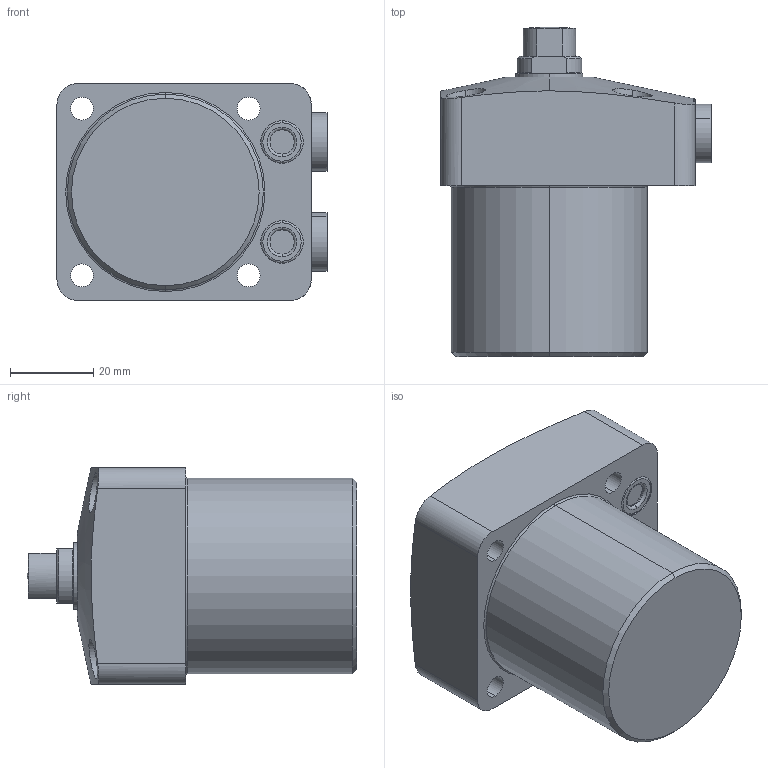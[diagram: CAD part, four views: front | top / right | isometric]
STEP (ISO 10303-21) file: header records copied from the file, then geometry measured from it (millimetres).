
FILE_DESCRIPTION(/* description */ (''),/* implementation_level */ '2;1');
FILE_NAME(/* name */ 'CSU06_step.stp',/* time_stamp */ '2022-11-16T13:22:10+08:00',/* author */ (''),/* organization */ (''),/* preprocessor_version */ 'ST-DEVELOPER v16.7',/* originating_system */ 'SIEMENS PLM Software NX 12.0',/* authorisation */ '');
FILE_SCHEMA (('AP203_CONFIGURATION_CONTROLLED_3D_DESIGN_OF_MECHANICAL_PARTS_AND_ASSEMBLIES_MIM_LF { 1 0 10303 403 2 1 2}'));
Length unit declared in the file: millimetre
Products named in the file (5): FSC06-02; FSC06-04; FSC06-03; FSC06-01; CSU06_step
Assembly tree (5 placements, depth 2):
  CSU06_step
    FSC06-01
    FSC06-03
    FSC06-04  x2
    FSC06-02
Bounding box: 64.8 x 79 x 52 mm (x, y, z)
Volume: 143051.8 mm3; surface area: 24494.5 mm2
Topology: 5 solids, 7 shells, 197 faces, 430 edges, 265 vertices
Faces by surface type: cylinder 82, plane 55, torus 30, cone 28, sphere 2
Entity records: 5603 total; most frequent: CARTESIAN_POINT 970, DIRECTION 942, ORIENTED_EDGE 776, AXIS2_PLACEMENT_3D 405, EDGE_CURVE 388, VERTEX_POINT 239, CIRCLE 222, EDGE_LOOP 207
